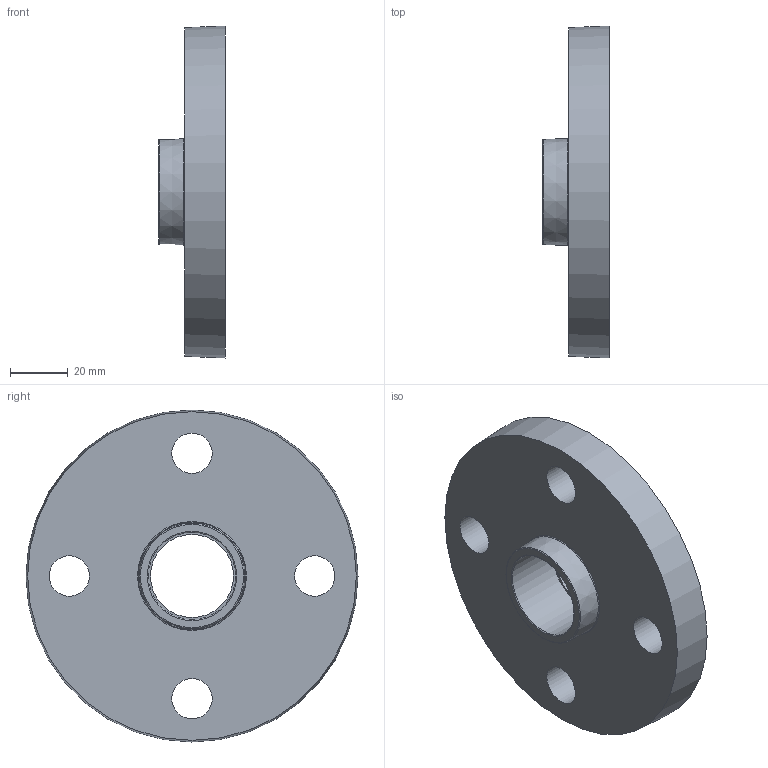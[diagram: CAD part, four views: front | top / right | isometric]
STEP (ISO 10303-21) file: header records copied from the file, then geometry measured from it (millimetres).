
FILE_DESCRIPTION(/* description */ ('PLASSON THR. FIXED FLANGE PVC 1"'),/* implementation_level */ '2;1');
FILE_NAME(/* name */ 'C:\Dropbox\KIMPROJECTS-Inventor\99-16-3568-Processing\PVC Catalog 2017\059201\059201010.ipt.stp',/* time_stamp */ '2017-12-07T16:07:26+02:00',/* author */ ('KIM'),/* organization */ (''),/* preprocessor_version */ 'ST-DEVELOPER v15.6',/* originating_system */ 'Autodesk Inventor 2015',/* authorisation */ '');
FILE_SCHEMA (('AUTOMOTIVE_DESIGN { 1 0 10303 214 3 1 1 }'));
Length unit declared in the file: millimetre
Products named in the file (1): 059201010
Bounding box: 23 x 115 x 115 mm (x, y, z)
Volume: 128468.2 mm3; surface area: 28799.2 mm2
Topology: 1 solids, 1 shells, 28 faces, 50 edges, 32 vertices
Faces by surface type: cylinder 12, plane 10, torus 4, cone 2
Full cylindrical faces by diameter (mm): 14 x4, 28.776 x1, 30.291 x1, 30.532 x1, 31.682 x1, 32.832 x1, 33.982 x1, 35.132 x1, 36.282 x1
Entity records: 648 total; most frequent: DIRECTION 122, CARTESIAN_POINT 93, EDGE_LOOP 64, ORIENTED_EDGE 64, AXIS2_PLACEMENT_3D 61, FACE_BOUND 36, CIRCLE 32, VERTEX_POINT 32
